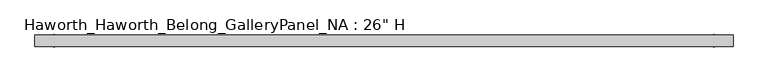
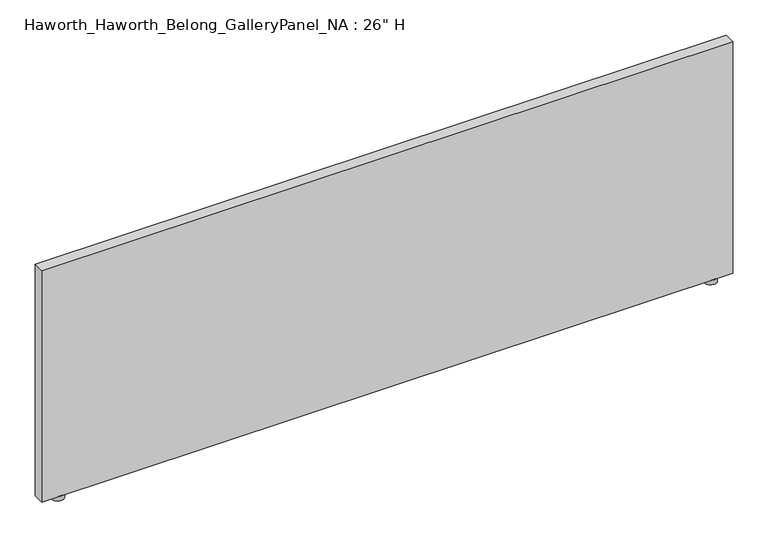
"""IFC4 building model written with IfcOpenShell, lengths in millimetres: furniture geometry."""

from ifc_helpers import new_model, si_unit, point, frame, frame_2d, origin, origin_with_axes, place, context, project, spatial, polyline, circle_curve, trimmed, segment, composite_curve, outline, extrude, source, transform, mapped, element, save


def furniture_9b25c237(model_context):
    return source(origin(), model_context, "Body", "SweptSolid", [
        extrude(outline(composite_curve([segment(trimmed(circle_curve(frame_2d((830.9354564, 0.0)), 16.0020275), [point((846.9374838, 0.0))], [point((814.9334289, 0.0))], False, "CARTESIAN"), True, "CONTINUOUS"), segment(trimmed(circle_curve(frame_2d((830.9354564, 0.0)), 16.0020275), [point((814.9334289, 0.0))], [point((846.9374838, 0.0))], False, "CARTESIAN"), True, "CONTINUOUS")], self_intersect=False)), origin_with_axes(), (0.0, 0.0, 1.0), 12.7),
        extrude(outline(composite_curve([segment(trimmed(circle_curve(frame_2d((-896.2645436, 0.0)), 16.0020275), [point((-912.2665711, 0.0))], [point((-880.2625162, 0.0))], False, "CARTESIAN"), True, "CONTINUOUS"), segment(trimmed(circle_curve(frame_2d((-896.2645436, 0.0)), 16.0020275), [point((-880.2625162, 0.0))], [point((-912.2665711, 0.0))], False, "CARTESIAN"), True, "CONTINUOUS")], self_intersect=False)), origin_with_axes(), (0.0, 0.0, 1.0), 12.7),
        extrude(outline(polyline([(881.7354564, -14.9859726), (-947.0645436, -14.9859726), (-947.0645436, 14.9860287), (881.7354564, 14.9860287), (881.7354564, -14.9859726)])), frame((0.0, 0.0, 12.7), z_axis=(0.0, 0.0, 1.0), x_axis=(1.0, 0.0, 0.0)), (0.0, 0.0, 1.0), 647.7),
    ])


if __name__ == "__main__":
    model = new_model("IFC4")
    model_context = context("Model", 3, world=origin())
    ifc_project = project(units=[si_unit("LENGTHUNIT", "METRE", prefix="MILLI")], contexts=[model_context])
    site = spatial("IfcSite", under=ifc_project)
    building = spatial("IfcBuilding", under=site)
    placement = place(None, origin())
    furniture_shape = furniture_9b25c237(model_context)
    element("IfcFurniture", 1, ObjectType="Haworth_Haworth_Belong_GalleryPanel_NA : 26\" H", at=placement, inside=building, context=model_context, shape_type="MappedRepresentation", body=[
        mapped(furniture_shape, transform((0.0, 0.0, 0.0), x_axis=(1.0, 0.0, 0.0), y_axis=(0.0, 1.0, 0.0), z_axis=(0.0, 0.0, 1.0))),
    ])
    save(model, "model.ifc")
